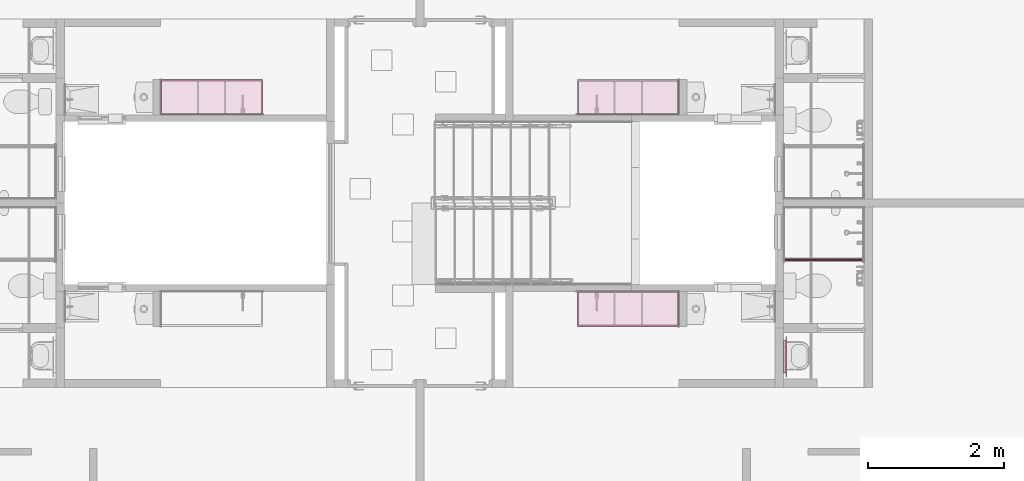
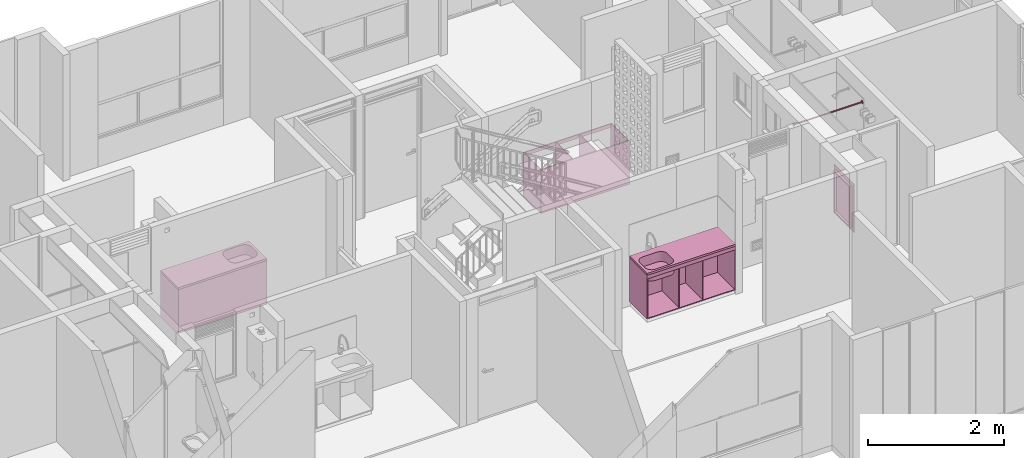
# One storey, part 43 of 48: 7 furniture elements.
"""IFC4 building model written with IfcOpenShell, lengths in metres."""

from ifc_helpers import new_model, entity, si_unit, converted_unit, derived_unit, direction, frame, origin, place, context, subcontext, project, spatial, arc, indexed_curve, outline, extrude, polygons, source, transform, mapped, material, constituent, constituent_set, type_object, type_shapes, element, save


model = new_model("IFC4")

# Units and contexts
model_context = context("Model", 3, precision=1e-05, world=origin(), true_north=direction((6.123031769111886e-17, 1.0)))
body_context = subcontext(model_context, "Body", "Model", "MODEL_VIEW")
ifc_project = project(units=[si_unit("LENGTHUNIT", "METRE"), si_unit("AREAUNIT", "SQUARE_METRE"), si_unit("VOLUMEUNIT", "CUBIC_METRE"), converted_unit("PLANEANGLEUNIT", "DEGREE", entity("IfcRatioMeasure", 0.017453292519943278), si_unit("PLANEANGLEUNIT", "RADIAN"), dimensions=[0, 0, 0, 0, 0, 0, 0]), si_unit("MASSUNIT", "GRAM", prefix="KILO"), derived_unit("MASSDENSITYUNIT", [(si_unit("MASSUNIT", "GRAM", prefix="KILO"), 1), (si_unit("LENGTHUNIT", "METRE"), -3)]), derived_unit("IONCONCENTRATIONUNIT", [(si_unit("MASSUNIT", "GRAM", prefix="KILO"), 1), (si_unit("LENGTHUNIT", "METRE"), -3)]), derived_unit("MOMENTOFINERTIAUNIT", [(si_unit("LENGTHUNIT", "METRE"), 4)]), si_unit("TIMEUNIT", "SECOND"), si_unit("FREQUENCYUNIT", "HERTZ"), si_unit("THERMODYNAMICTEMPERATUREUNIT", "DEGREE_CELSIUS"), derived_unit("THERMALTRANSMITTANCEUNIT", [(si_unit("MASSUNIT", "GRAM", prefix="KILO"), 1), (si_unit("THERMODYNAMICTEMPERATUREUNIT", "KELVIN"), -1), (si_unit("TIMEUNIT", "SECOND"), -3)]), derived_unit("THERMALCONDUCTANCEUNIT", [(si_unit("MASSUNIT", "GRAM", prefix="KILO"), 1), (si_unit("THERMODYNAMICTEMPERATUREUNIT", "KELVIN"), -1), (si_unit("TIMEUNIT", "SECOND"), -3), (si_unit("LENGTHUNIT", "METRE"), 1)]), derived_unit("VOLUMETRICFLOWRATEUNIT", [(si_unit("LENGTHUNIT", "METRE"), 3), (si_unit("TIMEUNIT", "SECOND"), -1)]), derived_unit("MASSFLOWRATEUNIT", [(si_unit("MASSUNIT", "GRAM", prefix="KILO"), 1), (si_unit("TIMEUNIT", "SECOND"), -1)]), derived_unit("ROTATIONALFREQUENCYUNIT", [(si_unit("TIMEUNIT", "SECOND"), -1)]), si_unit("ELECTRICCURRENTUNIT", "AMPERE"), si_unit("ELECTRICVOLTAGEUNIT", "VOLT"), si_unit("POWERUNIT", "WATT"), si_unit("FORCEUNIT", "NEWTON", prefix="KILO"), si_unit("ILLUMINANCEUNIT", "LUX"), si_unit("LUMINOUSFLUXUNIT", "LUMEN"), si_unit("LUMINOUSINTENSITYUNIT", "CANDELA"), derived_unit("USERDEFINED", [(si_unit("MASSUNIT", "GRAM", prefix="KILO"), -1), (si_unit("LENGTHUNIT", "METRE"), -2), (si_unit("TIMEUNIT", "SECOND"), 3), (si_unit("LUMINOUSFLUXUNIT", "LUMEN"), 1)]), derived_unit("USERDEFINED", [(si_unit("MASSUNIT", "GRAM", prefix="KILO"), 1), (si_unit("TIMEUNIT", "SECOND"), -3), (si_unit("LENGTHUNIT", "METRE"), 3), (si_unit("ELECTRICCURRENTUNIT", "AMPERE"), -2)]), derived_unit("SOUNDPOWERUNIT", [(si_unit("MASSUNIT", "GRAM", prefix="KILO"), 1), (si_unit("TIMEUNIT", "SECOND"), -3), (si_unit("LENGTHUNIT", "METRE"), 2)]), derived_unit("SOUNDPRESSUREUNIT", [(si_unit("MASSUNIT", "GRAM", prefix="KILO"), 1), (si_unit("LENGTHUNIT", "METRE"), -1), (si_unit("TIMEUNIT", "SECOND"), -2)]), derived_unit("LINEARVELOCITYUNIT", [(si_unit("LENGTHUNIT", "METRE"), 1), (si_unit("TIMEUNIT", "SECOND"), -1)]), si_unit("PRESSUREUNIT", "PASCAL"), derived_unit("USERDEFINED", [(si_unit("MASSUNIT", "GRAM", prefix="KILO"), 1), (si_unit("LENGTHUNIT", "METRE"), -2), (si_unit("TIMEUNIT", "SECOND"), -2)]), derived_unit("LINEARFORCEUNIT", [(si_unit("MASSUNIT", "GRAM", prefix="KILO"), 1), (si_unit("TIMEUNIT", "SECOND"), -2)]), derived_unit("PLANARFORCEUNIT", [(si_unit("MASSUNIT", "GRAM", prefix="KILO"), 1), (si_unit("LENGTHUNIT", "METRE"), -1), (si_unit("TIMEUNIT", "SECOND"), -2)]), derived_unit("SPECIFICHEATCAPACITYUNIT", [(si_unit("THERMODYNAMICTEMPERATUREUNIT", "KELVIN"), -1), (si_unit("LENGTHUNIT", "METRE"), 2), (si_unit("TIMEUNIT", "SECOND"), -2)]), derived_unit("HEATINGVALUEUNIT", [(si_unit("LENGTHUNIT", "METRE"), 2), (si_unit("TIMEUNIT", "SECOND"), -2)]), derived_unit("VAPORPERMEABILITYUNIT", [(si_unit("LENGTHUNIT", "METRE"), -1), (si_unit("TIMEUNIT", "SECOND"), 1)]), derived_unit("DYNAMICVISCOSITYUNIT", [(si_unit("MASSUNIT", "GRAM", prefix="KILO"), 1), (si_unit("TIMEUNIT", "SECOND"), -1), (si_unit("LENGTHUNIT", "METRE"), -1)]), derived_unit("THERMALEXPANSIONCOEFFICIENTUNIT", [(si_unit("THERMODYNAMICTEMPERATUREUNIT", "KELVIN"), -1)]), derived_unit("MODULUSOFELASTICITYUNIT", [(si_unit("MASSUNIT", "GRAM", prefix="KILO"), 1), (si_unit("LENGTHUNIT", "METRE"), -1), (si_unit("TIMEUNIT", "SECOND"), -2)]), derived_unit("ISOTHERMALMOISTURECAPACITYUNIT", [(si_unit("LENGTHUNIT", "METRE"), 3), (si_unit("MASSUNIT", "GRAM", prefix="KILO"), -1)]), derived_unit("MOISTUREDIFFUSIVITYUNIT", [(si_unit("TIMEUNIT", "SECOND"), -1), (si_unit("LENGTHUNIT", "METRE"), 2)])], contexts=[model_context])

# Site, building, storey
site_placement = place(None, origin())
site = spatial("IfcSite", under=ifc_project, at=site_placement, Name="Default", CompositionType="ELEMENT")
building_placement = place(site_placement, origin())
building = spatial("IfcBuilding", under=site, at=building_placement, CompositionType="ELEMENT")
storey_placement = place(building_placement, frame((0.0, 0.0, 4.700000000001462)))
storey = spatial("IfcBuildingStorey", under=building, at=storey_placement, Name="Nivel 3", CompositionType="ELEMENT", Elevation=4.700000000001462)

# Furniture
ifc_material_1 = material(Name="Aluminio", Category="Materials")
ifc_constituent_1 = constituent(ifc_material_1, Name="Aluminio", Category="Materials")
ifc_material_2 = material(Name="ESPEJO", Category="Materials")
ifc_constituent_2 = constituent(ifc_material_2, Name="ESPEJO", Category="Materials")
ifc_constituent_set_1 = constituent_set(constituents=[ifc_constituent_1, ifc_constituent_2])
ifc_constituent_3 = constituent(ifc_material_1, Name="Aluminio", Category="Materials")
ifc_constituent_4 = constituent(ifc_material_2, Name="ESPEJO", Category="Materials")
ifc_constituent_set_2 = constituent_set(constituents=[ifc_constituent_3, ifc_constituent_4])
furniture_type_1 = type_object("IfcFurnitureType", Name="E2050 - Espejo:E2050 - 0.60m x 0.87m - Espejo", AssemblyPlace="NOTDEFINED", PredefinedType="NOTDEFINED", material=ifc_constituent_set_2)
shared_shape_1 = source(origin(), body_context, "Body", "SweptSolid", [
    extrude(outline(indexed_curve([(-0.3749999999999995, -0.2399999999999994), (0.37499999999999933, -0.23999999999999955), (0.3749999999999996, 0.2399999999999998), (-0.3749999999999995, 0.23999999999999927), (-0.3749999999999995, -0.2399999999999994)], self_intersect=False), holes=[indexed_curve([(-0.34999999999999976, 0.21499999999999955), (0.34999999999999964, 0.21499999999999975), (0.34999999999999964, -0.21499999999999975), (-0.34999999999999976, -0.21499999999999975), (-0.34999999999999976, 0.21499999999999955)], self_intersect=False)]), frame((0.12499999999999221, -0.09999999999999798, 1.485), z_axis=(0.0, 1.0, 0.0), x_axis=(0.0, 0.0, -1.0)), (0.0, 0.0, 1.0), 0.037500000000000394),
    extrude(outline(indexed_curve([(-0.30000000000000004, -0.00350000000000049), (0.30000000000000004, -0.00350000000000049), (0.30000000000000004, 0.00350000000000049), (-0.30000000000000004, 0.00350000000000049), (-0.30000000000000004, -0.00350000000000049)], self_intersect=False)), frame((0.1249999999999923, -0.10350000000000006, 1.05), z_axis=(0.0, 0.0, 1.0), x_axis=(-1.0, 0.0, 0.0)), (0.0, 0.0, 1.0), 0.87),
])
type_shapes(furniture_type_1, [shared_shape_1])
furniture_1_placement = place(storey_placement, frame((14.620000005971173, -8.815000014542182, -0.020000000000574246), z_axis=(0.0, 0.0, 1.0), x_axis=(0.0, 1.0, 0.0)))
element("IfcFurniture", 1, at=furniture_1_placement, inside=storey, type_object=furniture_type_1, material=ifc_constituent_set_1, Name="E2050 - Espejo:E2050 - 0.60m x 0.87m - Espejo", ObjectType="E2050 - Espejo:E2050 - 0.60m x 0.87m - Espejo", PredefinedType="NOTDEFINED", context=body_context, shape_type="MappedRepresentation", body=[
    mapped(shared_shape_1, transform((0.0, 0.0, 0.0), scale=1.0)),
])

# Space
space_1_placement = place(storey_placement, origin())
space_1 = spatial("IfcSpace", under=storey, at=space_1_placement, Name="166", CompositionType="ELEMENT", PredefinedType="SPACE")

# Furniture
ifc_material_3 = material(Name="<Unnamed>")
furniture_type_2 = type_object("IfcFurnitureType", Name="Barra baño:E2050- Barra Baño- Acero inoxidable", AssemblyPlace="NOTDEFINED", PredefinedType="NOTDEFINED", material=ifc_material_3)
shared_shape_2 = source(origin(), body_context, "Body", "SweptSolid", [
    extrude(outline(indexed_curve([(-0.025, 2.707167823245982e-16), (-2.9325041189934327e-16, -0.025), (0.025, 0.0), (7.924642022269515e-17, 0.025)], segments=[arc(1, 2, 3), arc(3, 4, 1)], self_intersect=False)), frame((-1.1599989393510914, 0.0, 1.8000000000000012), z_axis=(1.0, 0.0, 0.0), x_axis=(0.0, -1.0, 0.0)), (0.0, 0.0, 1.0), 0.005000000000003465),
    extrude(outline(indexed_curve([(-0.03, 2.707167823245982e-16), (-3.2525514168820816e-16, -0.029999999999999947), (0.03, 0.0), (9.509570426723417e-17, 0.029999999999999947)], segments=[arc(1, 2, 3), arc(3, 4, 1)], self_intersect=False)), frame((-1.164998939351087, 0.0, 1.8000000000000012), z_axis=(1.0, 0.0, 0.0), x_axis=(0.0, -1.0, 0.0)), (0.0, 0.0, 1.0), 0.0049999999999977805),
    extrude(outline(indexed_curve([(-0.0125, 0.0), (-8.001182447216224e-17, -0.012499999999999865), (0.0125, 0.0), (3.9623210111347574e-17, 0.012499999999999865)], segments=[arc(1, 2, 3), arc(3, 4, 1)], self_intersect=False)), frame((-1.1549989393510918, 0.0, 1.7999999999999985), z_axis=(1.0, 0.0, 0.0), x_axis=(0.0, -1.0, 0.0)), (0.0, 0.0, 1.0), 1.149998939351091),
    extrude(outline(indexed_curve([(-0.025, 0.0), (-1.600236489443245e-16, -0.025000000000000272), (0.025, 0.0), (-5.398034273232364e-17, 0.02499999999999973)], segments=[arc(1, 2, 3), arc(3, 4, 1)], self_intersect=False)), frame((-0.005000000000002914, 0.0, 1.7999999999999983), z_axis=(1.0, 0.0, 0.0), x_axis=(0.0, -1.0, 0.0)), (0.0, 0.0, 1.0), 0.005000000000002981),
    extrude(outline(indexed_curve([(-0.03, 0.0), (-1.9202837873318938e-16, -0.030000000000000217), (0.03, 0.0), (-3.813105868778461e-17, 0.029999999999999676)], segments=[arc(1, 2, 3), arc(3, 4, 1)], self_intersect=False)), frame((0.0, 0.0, 1.7999999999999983), z_axis=(1.0, 0.0, 0.0), x_axis=(0.0, -1.0, 0.0)), (0.0, 0.0, 1.0), 0.00499999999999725),
])
type_shapes(furniture_type_2, [shared_shape_2])
furniture_2_placement = place(space_1_placement, frame((14.692500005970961, -7.260000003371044, 0.1299999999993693), z_axis=(0.0, 0.0, 1.0), x_axis=(-1.0, 0.0, 0.0)))
element("IfcFurniture", 2, at=furniture_2_placement, inside=space_1, type_object=furniture_type_2, material=ifc_material_3, Name="Barra baño:E2050- Barra Baño- Acero inoxidable", ObjectType="Barra baño:E2050- Barra Baño- Acero inoxidable", PredefinedType="NOTDEFINED", context=body_context, shape_type="MappedRepresentation", body=[
    mapped(shared_shape_2, transform((0.0, 0.0, 0.0), scale=1.0)),
])

# Space
space_2_placement = place(storey_placement, origin())
space_2 = spatial("IfcSpace", under=storey, at=space_2_placement, Name="162", CompositionType="ELEMENT", PredefinedType="SPACE")

# Furniture
ifc_material_4 = material(Name="mueble cocina", Category="Materials")
furniture_type_3 = type_object("IfcFurnitureType", Name="E2010 - Mueble bajo de cocina - Madera:E2010 - 1.50 x 0.52 - Mueble bajo de cocina - Madera", AssemblyPlace="NOTDEFINED", PredefinedType="NOTDEFINED", material=ifc_material_4)
shared_shape_3 = source(origin(), body_context, "Body", "SweptSolid", [
    extrude(outline(indexed_curve([(-0.007500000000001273, -0.7349999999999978), (0.007499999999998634, -0.7349999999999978), (0.007500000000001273, 0.7349999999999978), (-0.007499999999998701, 0.7349999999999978), (-0.007500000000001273, -0.7349999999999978)], self_intersect=False)), frame((0.04470032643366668, -0.5125000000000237, 0.8149999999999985), z_axis=(0.0, 0.0, 1.0), x_axis=(0.0, -1.0, 0.0)), (0.0, 0.0, 1.0), 0.06500000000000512),
    extrude(outline(indexed_curve([(-0.2600000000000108, -0.7499999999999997), (0.260000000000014, -0.7499999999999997), (0.2600000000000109, 0.7500000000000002), (-0.2600000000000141, 0.7499999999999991), (-0.2600000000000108, -0.7499999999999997)], self_intersect=False)), frame((0.04470032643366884, -0.2600000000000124, 0.09500000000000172), z_axis=(0.0, 0.0, 1.0), x_axis=(0.0, -1.0, 0.0)), (0.0, 0.0, 1.0), 0.0149999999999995),
    extrude(outline(indexed_curve([(-0.007500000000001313, -0.7500000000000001), (0.007499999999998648, -0.7500000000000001), (0.0075000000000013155, 0.7500000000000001), (-0.007499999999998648, 0.7500000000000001), (-0.007500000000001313, -0.7500000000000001)], self_intersect=False)), frame((0.04470032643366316, -0.00749999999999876, 0.11000000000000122), z_axis=(0.0, 0.0, 1.0), x_axis=(0.0, -1.0, 0.0)), (0.0, 0.0, 1.0), 0.7700000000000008),
    extrude(outline(indexed_curve([(-0.007500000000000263, -0.24500000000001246), (0.007499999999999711, -0.24500000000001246), (0.007500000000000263, 0.24500000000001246), (-0.007499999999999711, 0.24500000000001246), (-0.007500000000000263, -0.24500000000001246)], self_intersect=False)), frame((-0.1552996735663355, -0.2600000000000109, 0.11000000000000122), z_axis=(0.0, 0.0, 1.0), x_axis=(-1.0, 0.0, 0.0)), (0.0, 0.0, 1.0), 0.7700000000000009),
    extrude(outline(indexed_curve([(-0.007499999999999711, -0.24500000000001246), (0.007500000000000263, -0.24500000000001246), (0.007499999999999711, 0.24500000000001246), (-0.007500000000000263, 0.24500000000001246), (-0.007499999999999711, -0.24500000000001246)], self_intersect=False)), frame((0.24470032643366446, -0.26000000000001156, 0.11000000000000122), z_axis=(0.0, 0.0, 1.0), x_axis=(-1.0, 0.0, 0.0)), (0.0, 0.0, 1.0), 0.7700000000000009),
    extrude(outline(indexed_curve([(-0.00750000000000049, -0.2525000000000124), (0.0074999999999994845, -0.25250000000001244), (0.007500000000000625, 0.2525000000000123), (-0.007499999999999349, 0.2525000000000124), (-0.00750000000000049, -0.2525000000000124)], self_intersect=False)), frame((0.7872003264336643, -0.2675000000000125, 0.11000000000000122), z_axis=(0.0, 0.0, 1.0), x_axis=(-1.0, 0.0, 0.0)), (0.0, 0.0, 1.0), 0.7700000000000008),
    extrude(outline(indexed_curve([(-0.007499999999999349, -0.2525000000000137), (0.007500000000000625, -0.2525000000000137), (0.0074999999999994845, 0.25250000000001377), (-0.00750000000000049, 0.2525000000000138), (-0.007499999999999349, -0.2525000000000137)], self_intersect=False)), frame((-0.697799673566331, -0.2675000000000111, 0.11000000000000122), z_axis=(0.0, 0.0, 1.0), x_axis=(-1.0, 0.0, 0.0)), (0.0, 0.0, 1.0), 0.7700000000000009),
])
type_shapes(furniture_type_3, [shared_shape_3])
furniture_3_placement = place(space_2_placement, frame((12.437200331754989, -5.125000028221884, 0.014999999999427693), z_axis=(0.0, 0.0, 1.0), x_axis=(-1.0, 0.0, 0.0)))
element("IfcFurniture", 3, at=furniture_3_placement, inside=space_2, type_object=furniture_type_3, material=ifc_material_4, Name="E2010 - Mueble bajo de cocina - Madera:E2010 - 1.50 x 0.52 - Mueble bajo de cocina - Madera", ObjectType="E2010 - Mueble bajo de cocina - Madera:E2010 - 1.50 x 0.52 - Mueble bajo de cocina - Madera", PredefinedType="NOTDEFINED", context=body_context, shape_type="MappedRepresentation", body=[
    mapped(shared_shape_3, transform((0.0, 0.0, 0.0), scale=1.0)),
])

# Space
space_3_placement = place(storey_placement, origin())
space_3 = spatial("IfcSpace", under=storey, at=space_3_placement, Name="147", CompositionType="ELEMENT", PredefinedType="SPACE")

# Furniture
furniture_type_4 = type_object("IfcFurnitureType", Name="E2010 - Mueble bajo de cocina - Madera:E2010 - 1.50 x 0.52 - Mueble bajo de cocina - Madera", AssemblyPlace="NOTDEFINED", PredefinedType="NOTDEFINED", material=ifc_material_4)
shared_shape_4 = source(origin(), body_context, "Body", "SweptSolid", [
    extrude(outline(indexed_curve([(-0.7349999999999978, -0.007499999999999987), (0.7349999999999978, -0.007499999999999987), (0.7349999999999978, 0.007499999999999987), (-0.7349999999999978, 0.007499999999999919), (-0.7349999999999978, -0.007499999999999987)], self_intersect=False)), frame((0.04470032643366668, 0.5125000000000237, 0.8149999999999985)), (0.0, 0.0, 1.0), 0.06500000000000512),
    extrude(outline(indexed_curve([(-0.7499999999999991, -0.26000000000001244), (0.7499999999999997, -0.26000000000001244), (0.7499999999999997, 0.26000000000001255), (-0.7500000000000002, 0.26000000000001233), (-0.7499999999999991, -0.26000000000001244)], self_intersect=False)), frame((0.04470032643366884, 0.26000000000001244, 0.09500000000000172)), (0.0, 0.0, 1.0), 0.0149999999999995),
    extrude(outline(indexed_curve([(-0.7500000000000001, -0.007499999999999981), (0.7500000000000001, -0.007499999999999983), (0.7500000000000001, 0.007499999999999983), (-0.7500000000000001, 0.007499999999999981), (-0.7500000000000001, -0.007499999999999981)], self_intersect=False)), frame((0.04470032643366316, 0.00749999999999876, 0.11000000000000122)), (0.0, 0.0, 1.0), 0.7700000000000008),
    extrude(outline(indexed_curve([(-0.24500000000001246, -0.007499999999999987), (0.24500000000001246, -0.007499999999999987), (0.24500000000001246, 0.007499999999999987), (-0.24500000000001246, 0.007499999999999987), (-0.24500000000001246, -0.007499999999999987)], self_intersect=False)), frame((-0.1552996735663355, 0.2600000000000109, 0.11000000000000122), z_axis=(0.0, 0.0, 1.0), x_axis=(0.0, 1.0, 0.0)), (0.0, 0.0, 1.0), 0.7700000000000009),
    extrude(outline(indexed_curve([(-0.24500000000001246, -0.007499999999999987), (0.24500000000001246, -0.007499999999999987), (0.24500000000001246, 0.007499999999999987), (-0.24500000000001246, 0.007499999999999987), (-0.24500000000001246, -0.007499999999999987)], self_intersect=False)), frame((0.24470032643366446, 0.26000000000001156, 0.11000000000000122), z_axis=(0.0, 0.0, 1.0), x_axis=(0.0, 1.0, 0.0)), (0.0, 0.0, 1.0), 0.7700000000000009),
    extrude(outline(indexed_curve([(-0.25250000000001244, -0.007500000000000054), (0.2525000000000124, -0.007500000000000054), (0.2525000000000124, 0.007499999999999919), (-0.2525000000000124, 0.007499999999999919), (-0.25250000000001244, -0.007500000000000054)], self_intersect=False)), frame((0.7872003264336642, 0.2675000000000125, 0.11000000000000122), z_axis=(0.0, 0.0, 1.0), x_axis=(0.0, 1.0, 0.0)), (0.0, 0.0, 1.0), 0.7700000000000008),
    extrude(outline(indexed_curve([(-0.2525000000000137, -0.007500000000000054), (0.2525000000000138, -0.007500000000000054), (0.2525000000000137, 0.007499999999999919), (-0.2525000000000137, 0.007499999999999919), (-0.2525000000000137, -0.007500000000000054)], self_intersect=False)), frame((-0.6977996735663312, 0.2675000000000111, 0.11000000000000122), z_axis=(0.0, 0.0, 1.0), x_axis=(0.0, 1.0, 0.0)), (0.0, 0.0, 1.0), 0.7700000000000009),
])
type_shapes(furniture_type_4, [shared_shape_4])
furniture_4_placement = place(space_3_placement, frame((6.207799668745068, -5.1250000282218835, 0.014999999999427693)))
element("IfcFurniture", 4, at=furniture_4_placement, inside=space_3, type_object=furniture_type_4, material=ifc_material_4, Name="E2010 - Mueble bajo de cocina - Madera:E2010 - 1.50 x 0.52 - Mueble bajo de cocina - Madera", ObjectType="E2010 - Mueble bajo de cocina - Madera:E2010 - 1.50 x 0.52 - Mueble bajo de cocina - Madera", PredefinedType="NOTDEFINED", context=body_context, shape_type="MappedRepresentation", body=[
    mapped(shared_shape_4, transform((0.0, 0.0, 0.0), scale=1.0)),
])

# Space
space_4_placement = place(storey_placement, origin())
space_4 = spatial("IfcSpace", under=storey, at=space_4_placement, Name="169", CompositionType="ELEMENT", PredefinedType="SPACE")

# Furniture
furniture_5_placement = place(space_4_placement, frame((12.437200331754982, -7.725000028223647, 0.014999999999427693), z_axis=(0.0, 0.0, 1.0), x_axis=(-1.0, 0.0, 0.0)))
element("IfcFurniture", 5, at=furniture_5_placement, inside=space_4, type_object=furniture_type_4, material=ifc_material_4, Name="E2010 - Mueble bajo de cocina - Madera:E2010 - 1.50 x 0.52 - Mueble bajo de cocina - Madera", ObjectType="E2010 - Mueble bajo de cocina - Madera:E2010 - 1.50 x 0.52 - Mueble bajo de cocina - Madera", PredefinedType="NOTDEFINED", context=body_context, shape_type="MappedRepresentation", body=[
    mapped(shared_shape_4, transform((0.0, 0.0, 0.0), scale=1.0)),
])
ifc_material_5 = material(Name="Mesón cocina", Category="Materials")
furniture_type_5 = type_object("IfcFurnitureType", Name="E1060 - Meson Socoda Radiante - 1.50 X 0.52 - Acero inoxidable:E1060 - 1.50 x 0.52 - Meson de cocina, lavadero y estufa - Acero inoxidable", AssemblyPlace="NOTDEFINED", PredefinedType="NOTDEFINED", material=ifc_material_5)
shared_shape_5 = source(origin(), body_context, "Body", "Tessellation", [
    polygons([(0.7500000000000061, -0.2600000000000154, 0.03499999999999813), (0.7500000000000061, 0.2600000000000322, 0.03499999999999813), (-0.7499999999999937, 0.2600000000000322, 0.03499999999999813), (-0.7499999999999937, -0.2600000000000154, 0.03499999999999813), (0.23610399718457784, -0.03077661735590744, 0.03499999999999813), (0.23610399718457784, 0.11422338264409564, 0.03499999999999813), (0.23985215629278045, 0.14269347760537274, 0.03499999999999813), (0.2508412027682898, 0.1692233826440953, 0.03499999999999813), (0.2683222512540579, 0.1920051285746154, 0.03499999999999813), (0.2911039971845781, 0.20948617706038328, 0.03499999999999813), (0.31763390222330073, 0.22047522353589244, 0.03499999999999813), (0.3461039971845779, 0.22422338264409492, 0.03499999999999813), (0.5934732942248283, 0.2242233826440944, 0.03499999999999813), (0.6219433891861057, 0.22047522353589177, 0.03499999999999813), (0.6484732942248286, 0.20948617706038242, 0.03499999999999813), (0.6712550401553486, 0.1920051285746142, 0.03499999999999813), (0.6887360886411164, 0.1692233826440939, 0.03499999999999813), (0.6997251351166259, 0.14269347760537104, 0.03499999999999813), (0.703473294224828, 0.11422338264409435, 0.03499999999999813), (0.7034732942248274, -0.030776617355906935, 0.03499999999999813), (0.6997251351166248, -0.05924671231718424, 0.03499999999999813), (0.6887360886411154, -0.08577661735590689, 0.03499999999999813), (0.6712550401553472, -0.10855836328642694, 0.03499999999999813), (0.6484732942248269, -0.1260394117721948, 0.03499999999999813), (0.6219433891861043, -0.13702845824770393, 0.03499999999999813), (0.5934732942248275, -0.14077661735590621, 0.03499999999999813), (0.3461039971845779, -0.14077661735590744, 0.03499999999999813), (0.31763390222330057, -0.13702845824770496, 0.03499999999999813), (0.2911039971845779, -0.1260394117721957, 0.03499999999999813), (0.2683222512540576, -0.10855836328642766, 0.03499999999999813), (0.2508412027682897, -0.08577661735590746, 0.03499999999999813), (0.23985215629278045, -0.05924671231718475, 0.03499999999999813), (0.7500000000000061, -0.2600000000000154, -1.8678232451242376e-15), (-0.7499999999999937, -0.2600000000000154, -1.8678232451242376e-15), (-0.7499999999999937, 0.2600000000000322, -1.8678232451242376e-15), (0.7500000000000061, 0.2600000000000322, -1.8678232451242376e-15), (0.5934732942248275, -0.15077661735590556, -1.8678232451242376e-15), (0.62453157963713, -0.1466877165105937, -1.8678232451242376e-15), (0.6534732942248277, -0.13469966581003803, -1.8678232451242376e-15), (0.6783261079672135, -0.11562943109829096, -1.8678232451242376e-15), (0.6973963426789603, -0.09077661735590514, -1.8678232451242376e-15), (0.7093843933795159, -0.061834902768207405, -1.8678232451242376e-15), (0.7134732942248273, -0.030776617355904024, -1.8678232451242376e-15), (0.7134732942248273, 0.11422338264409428, -1.8678232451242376e-15), (0.7093843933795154, 0.14528166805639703, -1.8678232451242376e-15), (0.6973963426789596, 0.17422338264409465, -1.8678232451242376e-15), (0.6783261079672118, 0.19907619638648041, -1.8678232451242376e-15), (0.6534732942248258, 0.21814643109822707, -1.8678232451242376e-15), (0.6245315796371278, 0.2301344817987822, -1.8678232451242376e-15), (0.5934732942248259, 0.23422338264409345, -1.8678232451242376e-15), (0.34610399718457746, 0.23422338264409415, -1.8678232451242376e-15), (0.31504571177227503, 0.2301344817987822, -1.8678232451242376e-15), (0.2861039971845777, 0.2181464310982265, -1.8678232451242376e-15), (0.2612511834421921, 0.19907619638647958, -1.8678232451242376e-15), (0.24218094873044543, 0.17422338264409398, -1.8678232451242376e-15), (0.2301928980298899, 0.14528166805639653, -1.8678232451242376e-15), (0.22610399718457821, 0.11422338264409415, -1.8678232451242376e-15), (0.22610399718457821, -0.030776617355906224, -1.8678232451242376e-15), (0.23019289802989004, -0.06183490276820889, -1.8678232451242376e-15), (0.2421809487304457, -0.09077661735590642, -1.8678232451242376e-15), (0.2612511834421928, -0.11562943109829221, -1.8678232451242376e-15), (0.2861039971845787, -0.13469966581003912, -1.8678232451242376e-15), (0.31504571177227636, -0.1466877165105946, -1.8678232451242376e-15), (0.34610399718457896, -0.1507766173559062, -1.8678232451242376e-15), (0.5934732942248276, -0.1507766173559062, -0.16000000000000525), (0.34610399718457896, -0.1507766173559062, -0.16000000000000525), (0.31504571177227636, -0.1466877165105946, -0.16000000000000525), (0.2861039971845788, -0.13469966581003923, -0.16000000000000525), (0.261251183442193, -0.11562943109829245, -0.16000000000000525), (0.2421809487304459, -0.09077661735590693, -0.16000000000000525), (0.23019289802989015, -0.06183490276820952, -0.16000000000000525), (0.22610399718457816, -0.030776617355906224, -0.16000000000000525), (0.22610399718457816, 0.11422338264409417, -0.16000000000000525), (0.2301928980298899, 0.14528166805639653, -0.16000000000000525), (0.24218094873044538, 0.17422338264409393, -0.16000000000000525), (0.26125118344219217, 0.19907619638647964, -0.16000000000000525), (0.28610399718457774, 0.21814643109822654, -0.16000000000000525), (0.3150457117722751, 0.23013448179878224, -0.16000000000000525), (0.3461039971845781, 0.23422338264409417, -0.16000000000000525), (0.5934732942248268, 0.2342233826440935, -0.16000000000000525), (0.6245315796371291, 0.2301344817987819, -0.16000000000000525), (0.6534732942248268, 0.21814643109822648, -0.16000000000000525), (0.6783261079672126, 0.19907619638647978, -0.16000000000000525), (0.6973963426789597, 0.1742233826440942, -0.16000000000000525), (0.7093843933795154, 0.1452816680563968, -0.16000000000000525), (0.7134732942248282, 0.11422338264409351, -0.16000000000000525), (0.7134732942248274, -0.03077661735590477, -0.16000000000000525), (0.7093843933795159, -0.06183490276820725, -0.16000000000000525), (0.6973963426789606, -0.0907766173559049, -0.16000000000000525), (0.6783261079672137, -0.1156294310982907, -0.16000000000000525), (0.6534732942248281, -0.13469966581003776, -0.16000000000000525), (0.6245315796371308, -0.1466877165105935, -0.16000000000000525), (0.3461039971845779, -0.1407766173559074, -0.14475899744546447), (0.5934732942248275, -0.14077661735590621, -0.14475899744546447), (0.6219433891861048, -0.13702845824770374, -0.14475899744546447), (0.6484732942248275, -0.1260394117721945, -0.14475899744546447), (0.6712550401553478, -0.10855836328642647, -0.14475899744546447), (0.6887360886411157, -0.08577661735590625, -0.14475899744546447), (0.699725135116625, -0.05924671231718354, -0.14475899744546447), (0.7034732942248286, -0.030776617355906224, -0.14475899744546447), (0.7034732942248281, 0.11422338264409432, -0.14475899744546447), (0.6997251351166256, 0.14269347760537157, -0.14475899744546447), (0.6887360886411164, 0.16922338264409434, -0.14475899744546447), (0.6712550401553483, 0.19200512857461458, -0.14475899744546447), (0.6484732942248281, 0.20948617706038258, -0.14475899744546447), (0.6219433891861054, 0.22047522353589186, -0.14475899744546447), (0.5934732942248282, 0.22422338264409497, -0.14475899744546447), (0.3461039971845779, 0.2242233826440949, -0.14475899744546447), (0.31763390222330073, 0.22047522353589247, -0.14475899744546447), (0.2911039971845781, 0.20948617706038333, -0.14475899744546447), (0.2683222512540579, 0.19200512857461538, -0.14475899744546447), (0.25084120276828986, 0.16922338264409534, -0.14475899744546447), (0.23985215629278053, 0.14269347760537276, -0.14475899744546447), (0.23610399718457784, 0.11422338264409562, -0.14475899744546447), (0.23610399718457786, -0.030776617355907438, -0.14475899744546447), (0.2398521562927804, -0.05924671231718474, -0.14475899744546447), (0.25084120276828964, -0.08577661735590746, -0.14475899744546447), (0.2683222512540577, -0.10855836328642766, -0.14475899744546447), (0.2911039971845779, -0.1260394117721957, -0.14475899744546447), (0.31763390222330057, -0.13702845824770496, -0.14475899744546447)], [[[1, 2, 3, 4], [21, 22, 23, 24, 25, 26, 27, 28, 29, 30, 31, 32, 5, 6, 7, 8, 9, 10, 11, 12, 13, 14, 15, 16, 17, 18, 19, 20]], [[94, 95, 96, 97, 98, 99, 100, 101, 102, 103, 104, 105, 106, 107, 108, 109, 110, 111, 112, 113, 114, 115, 116, 117, 118, 119, 120, 93]], [[34, 35, 36, 33], [59, 60, 61, 62, 63, 64, 37, 38, 39, 40, 41, 42, 43, 44, 45, 46, 47, 48, 49, 50, 51, 52, 53, 54, 55, 56, 57, 58]], [[71, 72, 73, 74, 75, 76, 77, 78, 79, 80, 81, 82, 83, 84, 85, 86, 87, 88, 89, 90, 91, 92, 65, 66, 67, 68, 69, 70]], [[34, 33, 1, 4]], [[65, 37, 64, 66]], [[13, 12, 108, 107]], [[34, 4, 3, 35]], [[72, 58, 57, 73]], [[20, 19, 101, 100]], [[36, 35, 3, 2]], [[79, 51, 50, 80]], [[27, 26, 94, 93]], [[36, 2, 1, 33]], [[86, 44, 43, 87]], [[6, 5, 115, 114]], [[68, 67, 63, 62]], [[14, 106, 105, 15]], [[69, 68, 62, 61]], [[15, 105, 104, 16]], [[64, 63, 67, 66]], [[107, 106, 14, 13]], [[71, 70, 60, 59]], [[17, 103, 102, 18]], [[72, 71, 59, 58]], [[18, 102, 101, 19]], [[60, 70, 69, 61]], [[16, 104, 103, 17]], [[75, 74, 56, 55]], [[99, 98, 22, 21]], [[76, 75, 55, 54]], [[98, 97, 23, 22]], [[57, 56, 74, 73]], [[21, 20, 100, 99]], [[78, 77, 53, 52]], [[24, 96, 95, 25]], [[79, 78, 52, 51]], [[25, 95, 94, 26]], [[53, 77, 76, 54]], [[23, 97, 96, 24]], [[82, 81, 49, 48]], [[28, 120, 119, 29]], [[83, 82, 48, 47]], [[29, 119, 118, 30]], [[50, 49, 81, 80]], [[93, 120, 28, 27]], [[85, 84, 46, 45]], [[31, 117, 116, 32]], [[86, 85, 45, 44]], [[32, 116, 115, 5]], [[46, 84, 83, 47]], [[30, 118, 117, 31]], [[89, 88, 42, 41]], [[7, 113, 112, 8]], [[90, 89, 41, 40]], [[8, 112, 111, 9]], [[43, 42, 88, 87]], [[114, 113, 7, 6]], [[92, 91, 39, 38]], [[10, 110, 109, 11]], [[65, 92, 38, 37]], [[11, 109, 108, 12]], [[39, 91, 90, 40]], [[9, 111, 110, 10]]], closed=True),
])
type_shapes(furniture_type_5, [shared_shape_5])
furniture_6_placement = place(space_3_placement, frame((6.252499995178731, -4.865000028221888, 0.8949999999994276)))
element("IfcFurniture", 6, at=furniture_6_placement, inside=space_3, type_object=furniture_type_5, material=ifc_material_5, Name="E1060 - Meson Socoda Radiante - 1.50 X 0.52 - Acero inoxidable:E1060 - 1.50 x 0.52 - Meson de cocina, lavadero y estufa - Acero inoxidable", ObjectType="E1060 - Meson Socoda Radiante - 1.50 X 0.52 - Acero inoxidable:E1060 - 1.50 x 0.52 - Meson de cocina, lavadero y estufa - Acero inoxidable", PredefinedType="NOTDEFINED", context=body_context, shape_type="MappedRepresentation", body=[
    mapped(shared_shape_5, transform((0.0, 0.0, 0.0), scale=1.0)),
])
furniture_7_placement = place(space_4_placement, frame((12.392500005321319, -7.9850000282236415, 0.8949999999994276), z_axis=(0.0, 0.0, 1.0), x_axis=(-1.0, 0.0, 0.0)))
element("IfcFurniture", 7, at=furniture_7_placement, inside=space_4, type_object=furniture_type_5, material=ifc_material_5, Name="E1060 - Meson Socoda Radiante - 1.50 X 0.52 - Acero inoxidable:E1060 - 1.50 x 0.52 - Meson de cocina, lavadero y estufa - Acero inoxidable", ObjectType="E1060 - Meson Socoda Radiante - 1.50 X 0.52 - Acero inoxidable:E1060 - 1.50 x 0.52 - Meson de cocina, lavadero y estufa - Acero inoxidable", PredefinedType="NOTDEFINED", context=body_context, shape_type="MappedRepresentation", body=[
    mapped(shared_shape_5, transform((0.0, 0.0, 0.0), scale=1.0)),
])

save(model, "model.ifc")
